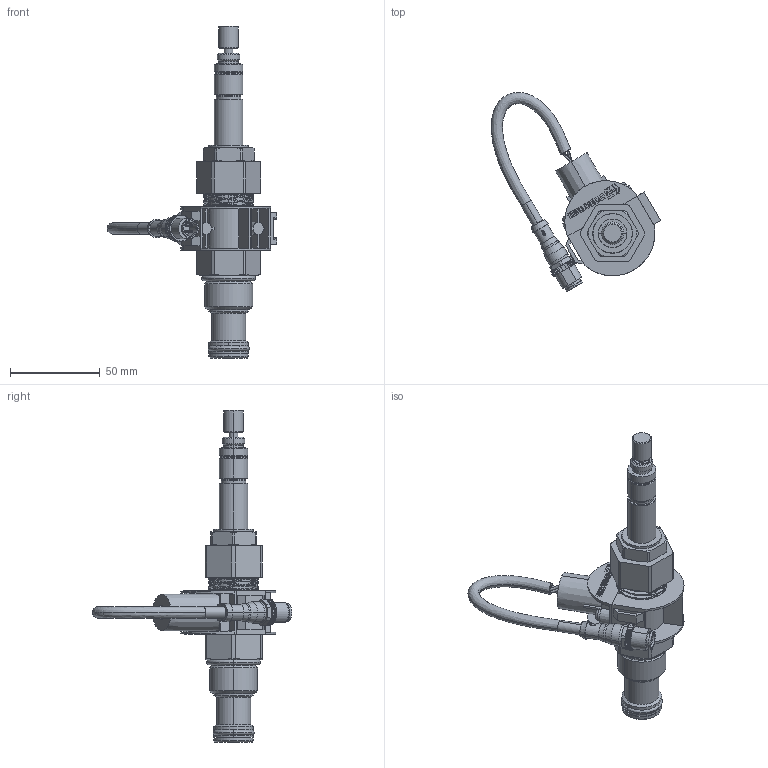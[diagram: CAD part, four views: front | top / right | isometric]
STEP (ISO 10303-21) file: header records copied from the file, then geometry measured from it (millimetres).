
FILE_DESCRIPTION((''),'2;1');
FILE_NAME('ASM0001_ASM','2021-06-24T14:48:42',('CY1'),(''),'CREO PARAMETRIC BY PTC INC, 2018020','CREO PARAMETRIC BY PTC INC, 2018020','');
FILE_SCHEMA(('CONFIG_CONTROL_DESIGN'));
Products named in the file (3): PRT0001; M_SENSOR_ASSEMBLY; ASM0001_ASM
Assembly tree (2 placements, depth 2):
  ASM0001_ASM
    PRT0001
    M_SENSOR_ASSEMBLY
Bounding box: 94.53 x 111.16 x 185.19 mm (x, y, z)
Volume: 106808 mm3; surface area: 43530.7 mm2
Topology: 2 solids, 3 shells, 1081 faces, 3016 edges, 1957 vertices
Faces by surface type: plane 505, cylinder 318, cone 90, bspline 78, extrusion 64, torus 26
Entity records: 44240 total; most frequent: CARTESIAN_POINT 17537, ORIENTED_EDGE 6020, DIRECTION 4806, EDGE_CURVE 3010, VERTEX_POINT 1957, VECTOR 1738, LINE 1674, AXIS2_PLACEMENT_3D 1534
